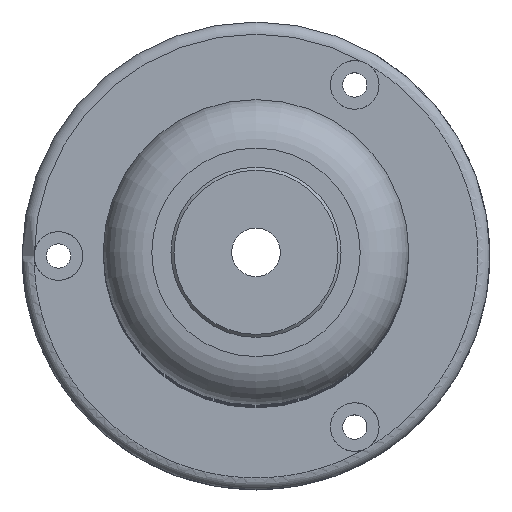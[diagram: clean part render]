
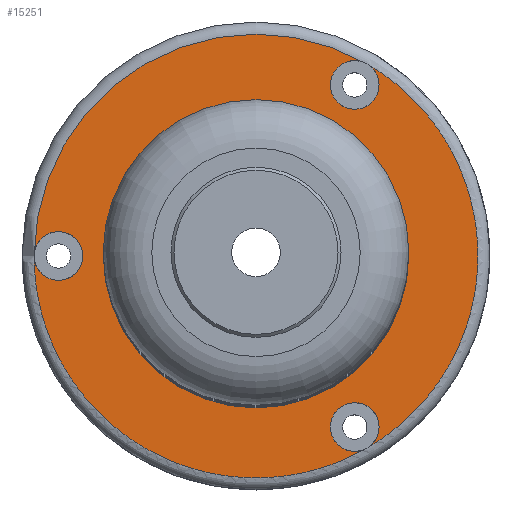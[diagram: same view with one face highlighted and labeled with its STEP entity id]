
A CAD part, top view. The second image highlights one B-rep face of the part: STEP entity #15251.
In plain terms, the highlighted planar face has unit normal (0, 0, -1).
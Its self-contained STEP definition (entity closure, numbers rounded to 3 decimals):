
#12928=PLANE('',#43395);
#15251=ADVANCED_FACE('',(#17836,#17837,#17838,#17839,#17840),#12928,.T.);
#17836=FACE_BOUND('',#18515,.T.);
#17837=FACE_BOUND('',#18516,.T.);
#17838=FACE_BOUND('',#18517,.T.);
#17839=FACE_BOUND('',#18518,.T.);
#17840=FACE_BOUND('',#18519,.T.);
#18515=EDGE_LOOP('',(#21577));
#18516=EDGE_LOOP('',(#21578));
#18517=EDGE_LOOP('',(#21579));
#18518=EDGE_LOOP('',(#21580));
#18519=EDGE_LOOP('',(#21581));
#21577=ORIENTED_EDGE('',*,*,#37331,.T.);
#21578=ORIENTED_EDGE('',*,*,#37332,.T.);
#21579=ORIENTED_EDGE('',*,*,#37333,.T.);
#21580=ORIENTED_EDGE('',*,*,#37334,.T.);
#21581=ORIENTED_EDGE('',*,*,#37321,.F.);
#33361=VERTEX_POINT('',#55692);
#33371=VERTEX_POINT('',#55846);
#33372=VERTEX_POINT('',#55848);
#33373=VERTEX_POINT('',#55850);
#33374=VERTEX_POINT('',#55852);
#37321=EDGE_CURVE('',#33361,#33361,#43218,.T.);
#37331=EDGE_CURVE('',#33371,#33371,#43226,.T.);
#37332=EDGE_CURVE('',#33372,#33372,#43227,.T.);
#37333=EDGE_CURVE('',#33373,#33373,#43228,.T.);
#37334=EDGE_CURVE('',#33374,#33374,#43229,.T.);
#43218=CIRCLE('',#43379,10.75);
#43226=CIRCLE('',#43391,2.);
#43227=CIRCLE('',#43392,2.);
#43228=CIRCLE('',#43393,2.);
#43229=CIRCLE('',#43394,38.);
#43379=AXIS2_PLACEMENT_3D('',#55691,#45965,#45966);
#43391=AXIS2_PLACEMENT_3D('',#55845,#45989,#45990);
#43392=AXIS2_PLACEMENT_3D('',#55847,#45991,#45992);
#43393=AXIS2_PLACEMENT_3D('',#55849,#45993,#45994);
#43394=AXIS2_PLACEMENT_3D('',#55851,#45995,#45996);
#43395=AXIS2_PLACEMENT_3D('',#55853,#45997,#45998);
#45965=DIRECTION('',(0.,0.,-1.));
#45966=DIRECTION('',(-1.,0.,0.));
#45989=DIRECTION('',(0.,0.,1.));
#45990=DIRECTION('',(1.,0.,0.));
#45991=DIRECTION('',(0.,0.,1.));
#45992=DIRECTION('',(1.,0.,0.));
#45993=DIRECTION('',(0.,0.,1.));
#45994=DIRECTION('',(1.,0.,0.));
#45995=DIRECTION('',(0.,0.,-1.));
#45996=DIRECTION('',(-1.,0.,0.));
#45997=DIRECTION('',(0.,0.,-1.));
#45998=DIRECTION('',(1.,0.,0.));
#55691=CARTESIAN_POINT('',(0.,50.,-90.5));
#55692=CARTESIAN_POINT('',(-10.75,50.,-90.5));
#55845=CARTESIAN_POINT('',(16.25,78.146,-90.5));
#55846=CARTESIAN_POINT('',(18.25,78.146,-90.5));
#55847=CARTESIAN_POINT('',(16.25,21.854,-90.5));
#55848=CARTESIAN_POINT('',(18.25,21.854,-90.5));
#55849=CARTESIAN_POINT('',(-32.5,50.,-90.5));
#55850=CARTESIAN_POINT('',(-30.5,50.,-90.5));
#55851=CARTESIAN_POINT('',(0.,50.,-90.5));
#55852=CARTESIAN_POINT('',(-38.,50.,-90.5));
#55853=CARTESIAN_POINT('',(0.,50.,-90.5));
